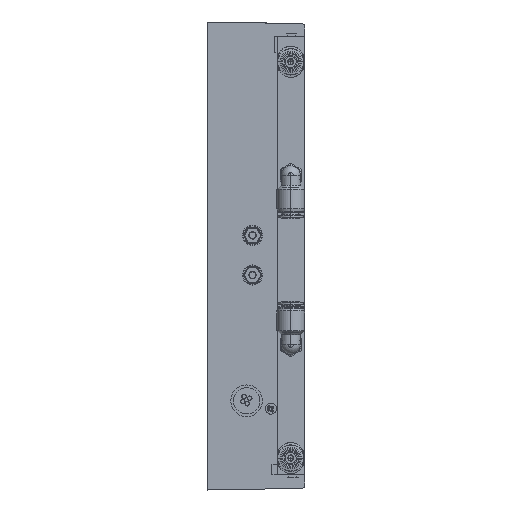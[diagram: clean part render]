
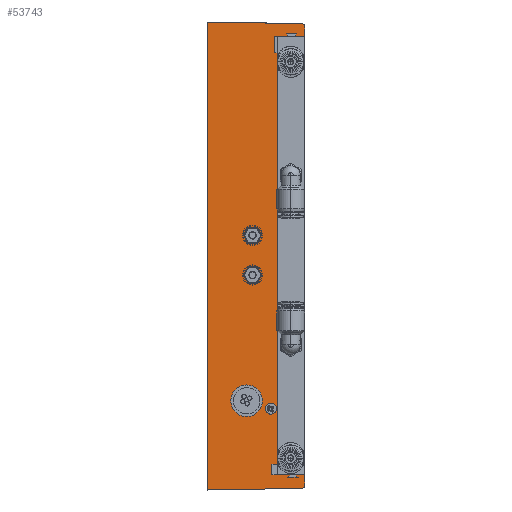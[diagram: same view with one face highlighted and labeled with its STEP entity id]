
A CAD part, left-side view. The second image highlights one B-rep face of the part: STEP entity #53743.
In plain terms, the highlighted planar face has unit normal (-1, 0, 0).
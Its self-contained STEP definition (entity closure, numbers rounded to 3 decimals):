
#852 = LINE ( 'NONE', #13178, #48480 ) ;
#936 = EDGE_CURVE ( 'NONE', #14843, #16961, #6204, .T. ) ;
#1134 = EDGE_LOOP ( 'NONE', ( #11423, #48954, #27171, #25491, #47809, #42602, #49207, #19152, #51504, #5365, #32334, #41487 ) ) ;
#1270 = CARTESIAN_POINT ( 'NONE',  ( -92.883, 499.556, 779.229 ) ) ;
#1755 = DIRECTION ( 'NONE',  ( 0., 0., 1. ) ) ;
#1937 = CARTESIAN_POINT ( 'NONE',  ( -92.883, 534.946, 632.546 ) ) ;
#3262 = EDGE_CURVE ( 'NONE', #18330, #39572, #14029, .T. ) ;
#3497 = VECTOR ( 'NONE', #20474, 1000. ) ;
#3902 = AXIS2_PLACEMENT_3D ( 'NONE', #11685, #28617, #19880 ) ;
#4232 = EDGE_CURVE ( 'NONE', #35332, #21998, #25168, .T. ) ;
#4691 = LINE ( 'NONE', #16741, #53710 ) ;
#4810 = VECTOR ( 'NONE', #19524, 1000. ) ;
#5107 = CARTESIAN_POINT ( 'NONE',  ( -92.883, 508.396, 777.346 ) ) ;
#5116 = ORIENTED_EDGE ( 'NONE', *, *, #23857, .F. ) ;
#5365 = ORIENTED_EDGE ( 'NONE', *, *, #21331, .T. ) ;
#5397 = CIRCLE ( 'NONE', #33345, 2.95 ) ;
#5672 = DIRECTION ( 'NONE',  ( 0., 0., 1. ) ) ;
#6204 = LINE ( 'NONE', #9783, #20862 ) ;
#6271 = DIRECTION ( 'NONE',  ( 0., 0., -1. ) ) ;
#6540 = CARTESIAN_POINT ( 'NONE',  ( -92.883, 517.746, 702.046 ) ) ;
#7579 = FACE_BOUND ( 'NONE', #25123, .T. ) ;
#7839 = VERTEX_POINT ( 'NONE', #24722 ) ;
#7891 = VERTEX_POINT ( 'NONE', #22234 ) ;
#8325 = CARTESIAN_POINT ( 'NONE',  ( -92.883, 499.519, 782.229 ) ) ;
#9212 = ORIENTED_EDGE ( 'NONE', *, *, #14318, .F. ) ;
#9754 = DIRECTION ( 'NONE',  ( -1., 0., 0. ) ) ;
#9783 = CARTESIAN_POINT ( 'NONE',  ( -92.883, 497.946, 657.872 ) ) ;
#10021 = VERTEX_POINT ( 'NONE', #16306 ) ;
#10623 = VERTEX_POINT ( 'NONE', #27107 ) ;
#10714 = ORIENTED_EDGE ( 'NONE', *, *, #3262, .F. ) ;
#11423 = ORIENTED_EDGE ( 'NONE', *, *, #46214, .T. ) ;
#11477 = CIRCLE ( 'NONE', #46419, 2.95 ) ;
#11685 = CARTESIAN_POINT ( 'NONE',  ( -92.883, 517.184, 657.872 ) ) ;
#11713 = CIRCLE ( 'NONE', #32667, 2.95 ) ;
#11959 = VERTEX_POINT ( 'NONE', #20059 ) ;
#11998 = LINE ( 'NONE', #41230, #3497 ) ;
#12274 = EDGE_CURVE ( 'NONE', #28844, #10021, #11998, .T. ) ;
#13178 = CARTESIAN_POINT ( 'NONE',  ( -92.883, 497.946, 657.872 ) ) ;
#13463 = VERTEX_POINT ( 'NONE', #44598 ) ;
#14029 = CIRCLE ( 'NONE', #30590, 2.95 ) ;
#14265 = DIRECTION ( 'NONE',  ( 0., 0., -1. ) ) ;
#14318 = EDGE_CURVE ( 'NONE', #35833, #32916, #11477, .T. ) ;
#14843 = VERTEX_POINT ( 'NONE', #51479 ) ;
#15546 = LINE ( 'NONE', #32494, #39983 ) ;
#16306 = CARTESIAN_POINT ( 'NONE',  ( -92.883, 504.994, 782.297 ) ) ;
#16622 = AXIS2_PLACEMENT_3D ( 'NONE', #1270, #9754, #21773 ) ;
#16741 = CARTESIAN_POINT ( 'NONE',  ( -92.883, 504.994, 606.196 ) ) ;
#16961 = VERTEX_POINT ( 'NONE', #31901 ) ;
#17348 = FACE_BOUND ( 'NONE', #42952, .T. ) ;
#17462 = CARTESIAN_POINT ( 'NONE',  ( -92.883, 515.009, 782.472 ) ) ;
#17810 = DIRECTION ( 'NONE',  ( 0., 0., 1. ) ) ;
#18330 = VERTEX_POINT ( 'NONE', #48275 ) ;
#18619 = VERTEX_POINT ( 'NONE', #38644 ) ;
#18649 = CARTESIAN_POINT ( 'NONE',  ( -92.883, 504.994, 606.196 ) ) ;
#18908 = EDGE_CURVE ( 'NONE', #35332, #18619, #4691, .T. ) ;
#19152 = ORIENTED_EDGE ( 'NONE', *, *, #12274, .T. ) ;
#19254 = CARTESIAN_POINT ( 'NONE',  ( -92.883, 517.746, 687.046 ) ) ;
#19524 = DIRECTION ( 'NONE',  ( 0., 1., -0.017 ) ) ;
#19724 = CARTESIAN_POINT ( 'NONE',  ( -92.883, 517.746, 702.046 ) ) ;
#19880 = DIRECTION ( 'NONE',  ( 0., 0., 1. ) ) ;
#20059 = CARTESIAN_POINT ( 'NONE',  ( -92.883, 497.946, 606.758 ) ) ;
#20474 = DIRECTION ( 'NONE',  ( 0., 1., 0.012 ) ) ;
#20862 = VECTOR ( 'NONE', #5672, 1000. ) ;
#21047 = EDGE_CURVE ( 'NONE', #16961, #28844, #21835, .T. ) ;
#21331 = EDGE_CURVE ( 'NONE', #13463, #21998, #51189, .T. ) ;
#21399 = EDGE_CURVE ( 'NONE', #10021, #13463, #37410, .T. ) ;
#21738 = AXIS2_PLACEMENT_3D ( 'NONE', #38845, #51434, #39900 ) ;
#21773 = DIRECTION ( 'NONE',  ( 0., 0., 1. ) ) ;
#21835 = CIRCLE ( 'NONE', #16622, 3. ) ;
#21870 = VECTOR ( 'NONE', #29217, 1000. ) ;
#21998 = VERTEX_POINT ( 'NONE', #26170 ) ;
#22234 = CARTESIAN_POINT ( 'NONE',  ( -92.883, 497.946, 611.446 ) ) ;
#23857 = EDGE_CURVE ( 'NONE', #32916, #35833, #5397, .T. ) ;
#24720 = VECTOR ( 'NONE', #42845, 1000. ) ;
#24722 = CARTESIAN_POINT ( 'NONE',  ( -92.883, 508.396, 611.446 ) ) ;
#25123 = EDGE_LOOP ( 'NONE', ( #5116, #9212 ) ) ;
#25168 = LINE ( 'NONE', #33384, #4810 ) ;
#25358 = DIRECTION ( 'NONE',  ( 0., 1., 0. ) ) ;
#25491 = ORIENTED_EDGE ( 'NONE', *, *, #34720, .F. ) ;
#26170 = CARTESIAN_POINT ( 'NONE',  ( -92.883, 534.946, 605.673 ) ) ;
#26178 = CARTESIAN_POINT ( 'NONE',  ( -92.883, 508.396, 611.446 ) ) ;
#26648 = CARTESIAN_POINT ( 'NONE',  ( -92.883, 517.746, 687.046 ) ) ;
#27107 = CARTESIAN_POINT ( 'NONE',  ( -92.883, 508.396, 777.346 ) ) ;
#27171 = ORIENTED_EDGE ( 'NONE', *, *, #42163, .F. ) ;
#27924 = DIRECTION ( 'NONE',  ( -1., 0., 0. ) ) ;
#28082 = FACE_OUTER_BOUND ( 'NONE', #1134, .T. ) ;
#28617 = DIRECTION ( 'NONE',  ( -1., 0., 0. ) ) ;
#28844 = VERTEX_POINT ( 'NONE', #8325 ) ;
#29217 = DIRECTION ( 'NONE',  ( 0., 1., 0.017 ) ) ;
#30590 = AXIS2_PLACEMENT_3D ( 'NONE', #6540, #52493, #36315 ) ;
#31407 = ORIENTED_EDGE ( 'NONE', *, *, #43251, .F. ) ;
#31901 = CARTESIAN_POINT ( 'NONE',  ( -92.883, 497.946, 781.76 ) ) ;
#32334 = ORIENTED_EDGE ( 'NONE', *, *, #4232, .F. ) ;
#32494 = CARTESIAN_POINT ( 'NONE',  ( -92.883, 508.396, 637.446 ) ) ;
#32667 = AXIS2_PLACEMENT_3D ( 'NONE', #19724, #27924, #36662 ) ;
#32916 = VERTEX_POINT ( 'NONE', #34815 ) ;
#32994 = PLANE ( 'NONE',  #3902 ) ;
#33345 = AXIS2_PLACEMENT_3D ( 'NONE', #19254, #35920, #52628 ) ;
#33368 = EDGE_CURVE ( 'NONE', #14843, #10623, #50802, .T. ) ;
#33384 = CARTESIAN_POINT ( 'NONE',  ( -92.883, 508.396, 606.136 ) ) ;
#34374 = LINE ( 'NONE', #26178, #24720 ) ;
#34720 = EDGE_CURVE ( 'NONE', #10623, #7839, #15546, .T. ) ;
#34815 = CARTESIAN_POINT ( 'NONE',  ( -92.883, 517.746, 689.996 ) ) ;
#35332 = VERTEX_POINT ( 'NONE', #18649 ) ;
#35833 = VERTEX_POINT ( 'NONE', #52504 ) ;
#35920 = DIRECTION ( 'NONE',  ( -1., 0., 0. ) ) ;
#36315 = DIRECTION ( 'NONE',  ( 0., 0., 1. ) ) ;
#36662 = DIRECTION ( 'NONE',  ( 0., 0., 1. ) ) ;
#37410 = LINE ( 'NONE', #17462, #21870 ) ;
#38644 = CARTESIAN_POINT ( 'NONE',  ( -92.883, 499.505, 606.29 ) ) ;
#38845 = CARTESIAN_POINT ( 'NONE',  ( -92.883, 499.556, 609.289 ) ) ;
#39572 = VERTEX_POINT ( 'NONE', #53944 ) ;
#39900 = DIRECTION ( 'NONE',  ( 0., 0., 1. ) ) ;
#39983 = VECTOR ( 'NONE', #6271, 1000. ) ;
#41230 = CARTESIAN_POINT ( 'NONE',  ( -92.883, 504.994, 782.297 ) ) ;
#41487 = ORIENTED_EDGE ( 'NONE', *, *, #18908, .T. ) ;
#42163 = EDGE_CURVE ( 'NONE', #7839, #7891, #34374, .T. ) ;
#42487 = VECTOR ( 'NONE', #25358, 1000. ) ;
#42602 = ORIENTED_EDGE ( 'NONE', *, *, #936, .T. ) ;
#42845 = DIRECTION ( 'NONE',  ( 0., -1., 0. ) ) ;
#42952 = EDGE_LOOP ( 'NONE', ( #31407, #10714 ) ) ;
#43251 = EDGE_CURVE ( 'NONE', #39572, #18330, #11713, .T. ) ;
#44544 = VECTOR ( 'NONE', #14265, 1000. ) ;
#44598 = CARTESIAN_POINT ( 'NONE',  ( -92.883, 534.946, 782.82 ) ) ;
#46214 = EDGE_CURVE ( 'NONE', #18619, #11959, #49692, .T. ) ;
#46419 = AXIS2_PLACEMENT_3D ( 'NONE', #26648, #47967, #1755 ) ;
#47809 = ORIENTED_EDGE ( 'NONE', *, *, #33368, .F. ) ;
#47967 = DIRECTION ( 'NONE',  ( -1., 0., 0. ) ) ;
#48275 = CARTESIAN_POINT ( 'NONE',  ( -92.883, 517.746, 699.096 ) ) ;
#48480 = VECTOR ( 'NONE', #17810, 1000. ) ;
#48954 = ORIENTED_EDGE ( 'NONE', *, *, #53033, .T. ) ;
#49207 = ORIENTED_EDGE ( 'NONE', *, *, #21047, .T. ) ;
#49692 = CIRCLE ( 'NONE', #21738, 3. ) ;
#50802 = LINE ( 'NONE', #5107, #42487 ) ;
#51189 = LINE ( 'NONE', #1937, #44544 ) ;
#51434 = DIRECTION ( 'NONE',  ( -1., 0., 0. ) ) ;
#51479 = CARTESIAN_POINT ( 'NONE',  ( -92.883, 497.946, 777.346 ) ) ;
#51504 = ORIENTED_EDGE ( 'NONE', *, *, #21399, .T. ) ;
#52493 = DIRECTION ( 'NONE',  ( -1., 0., 0. ) ) ;
#52504 = CARTESIAN_POINT ( 'NONE',  ( -92.883, 517.746, 684.096 ) ) ;
#52628 = DIRECTION ( 'NONE',  ( 0., 0., 1. ) ) ;
#53033 = EDGE_CURVE ( 'NONE', #11959, #7891, #852, .T. ) ;
#53710 = VECTOR ( 'NONE', #53912, 1000. ) ;
#53743 = ADVANCED_FACE ( 'NONE', ( #7579, #17348, #28082 ), #32994, .T. ) ;
#53912 = DIRECTION ( 'NONE',  ( 0., -1., 0.017 ) ) ;
#53944 = CARTESIAN_POINT ( 'NONE',  ( -92.883, 517.746, 704.996 ) ) ;
